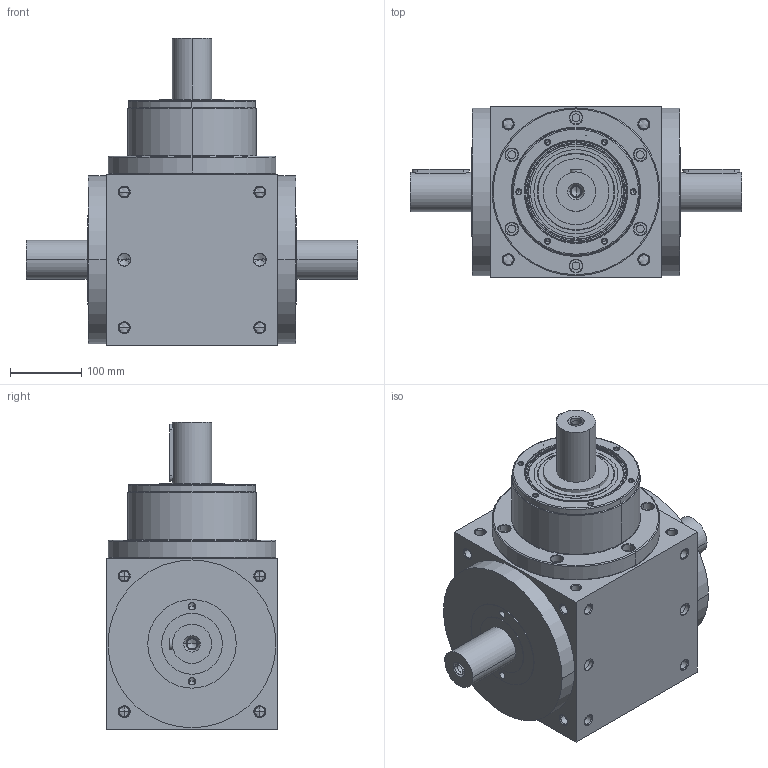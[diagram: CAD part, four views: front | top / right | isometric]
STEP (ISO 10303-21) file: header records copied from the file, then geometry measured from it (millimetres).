
FILE_DESCRIPTION((''),'2;1');
FILE_NAME('AT240L-1_ASM','2008-12-31T',('d00176'),(''),'PRO/ENGINEER BY PARAMETRIC TECHNOLOGY CORPORATION, 2006170','PRO/ENGINEER BY PARAMETRIC TECHNOLOGY CORPORATION, 2006170','');
FILE_SCHEMA(('CONFIG_CONTROL_DESIGN'));
Length unit declared in the file: millimetre
Products named in the file (4): ATL-HOUSING-1-9; P1801900001; 22400071009; AT240L-1_ASM
Assembly tree (3 placements, depth 2):
  AT240L-1_ASM
    ATL-HOUSING-1-9
    P1801900001
    22400071009
Bounding box: 464 x 240 x 430 mm (x, y, z)
Volume: 18656815.9 mm3; surface area: 766541.4 mm2
Topology: 4 solids, 37 shells, 613 faces, 1515 edges, 898 vertices
Faces by surface type: cylinder 284, cone 210, plane 81, torus 38
Entity records: 18311 total; most frequent: CARTESIAN_POINT 3846, DIRECTION 3247, ORIENTED_EDGE 2738, EDGE_CURVE 1435, AXIS2_PLACEMENT_3D 1360, VERTEX_POINT 898, CIRCLE 736, EDGE_LOOP 729
